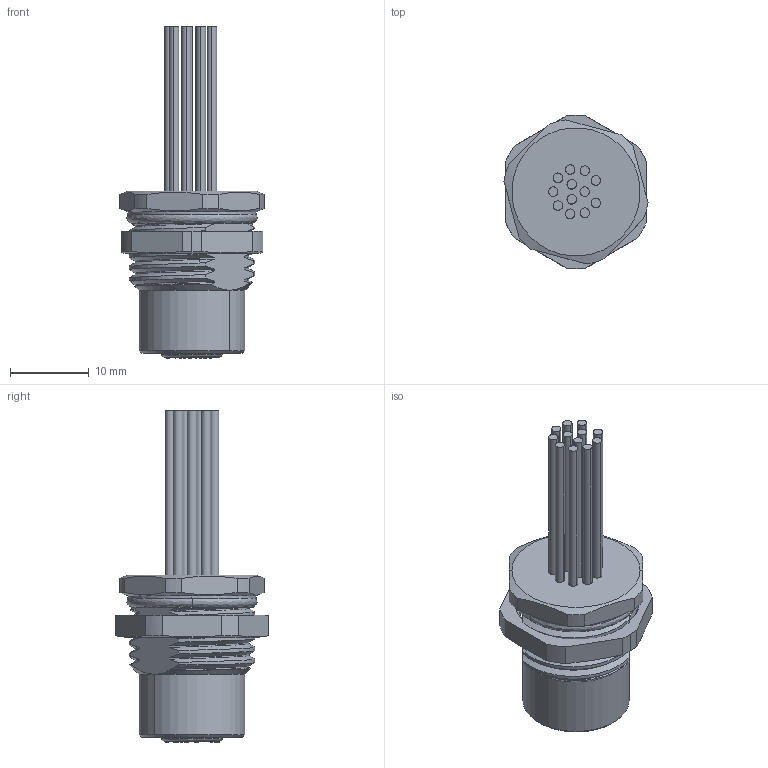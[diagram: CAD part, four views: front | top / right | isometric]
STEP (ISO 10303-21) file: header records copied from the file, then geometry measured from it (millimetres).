
FILE_DESCRIPTION (( 'STEP AP203' ), '1' );
FILE_NAME ('64SC61-XXX.STEP', '2023-10-25T05:59:38', ( 'ADMIN' ), ( '' ), 'SwSTEP 2.0', 'SolidWorks 2016', '' );
FILE_SCHEMA (( 'CONFIG_CONTROL_DESIGN' ));
Length unit declared in the file: millimetre
Products named in the file (1): 64SC61-XXX
Bounding box: 18.31 x 19.5 x 42.2 mm (x, y, z)
Volume: 3581.5 mm3; surface area: 4396.3 mm2
Topology: 2 solids, 15 shells, 549 faces, 1398 edges, 933 vertices
Faces by surface type: plane 195, bspline 159, cylinder 152, cone 43
Entity records: 39489 total; most frequent: CARTESIAN_POINT 27330, ORIENTED_EDGE 2784, DIRECTION 1978, EDGE_CURVE 1392, VERTEX_POINT 933, AXIS2_PLACEMENT_3D 708, EDGE_LOOP 613, LINE 562
